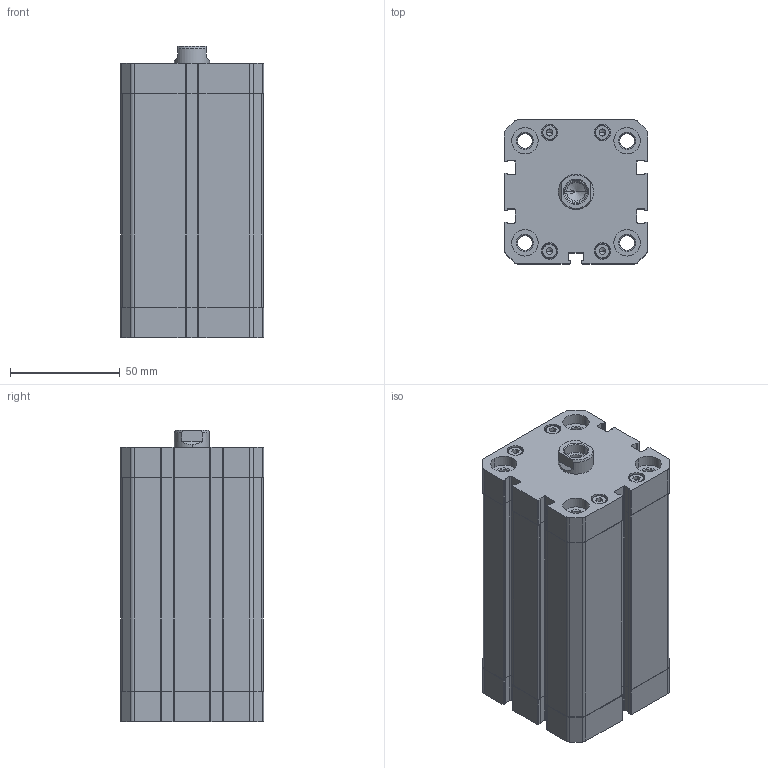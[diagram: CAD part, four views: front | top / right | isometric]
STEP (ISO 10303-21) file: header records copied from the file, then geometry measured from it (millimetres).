
FILE_DESCRIPTION (( 'STEP AP214' ), '1' );
FILE_NAME ('WPCC-050-0080 (3D).STEP', '2020-06-08T14:44:28', ( '' ), ( '' ), 'SwSTEP 2.0', 'SolidWorks 2016', '' );
FILE_SCHEMA (( 'AUTOMOTIVE_DESIGN' ));
Length unit declared in the file: millimetre
Products named in the file (3): WPCC-050-0080 (3D); Group2^WPCC-050-0080 (3D); Group1^WPCC-050-0080 (3D)
Assembly tree (2 placements, depth 2):
  WPCC-050-0080 (3D)
    Group1^WPCC-050-0080 (3D)
    Group2^WPCC-050-0080 (3D)
Bounding box: 65.5 x 65.5 x 132.6 mm (x, y, z)
Volume: 309803.6 mm3; surface area: 107414.5 mm2
Topology: 12 solids, 12 shells, 791 faces, 2066 edges, 1345 vertices
Faces by surface type: plane 391, cylinder 244, bspline 112, cone 44
Entity records: 31188 total; most frequent: CARTESIAN_POINT 10637, ORIENTED_EDGE 4112, DIRECTION 3770, EDGE_CURVE 2056, VERTEX_POINT 1345, VECTOR 1278, LINE 1278, AXIS2_PLACEMENT_3D 1246
